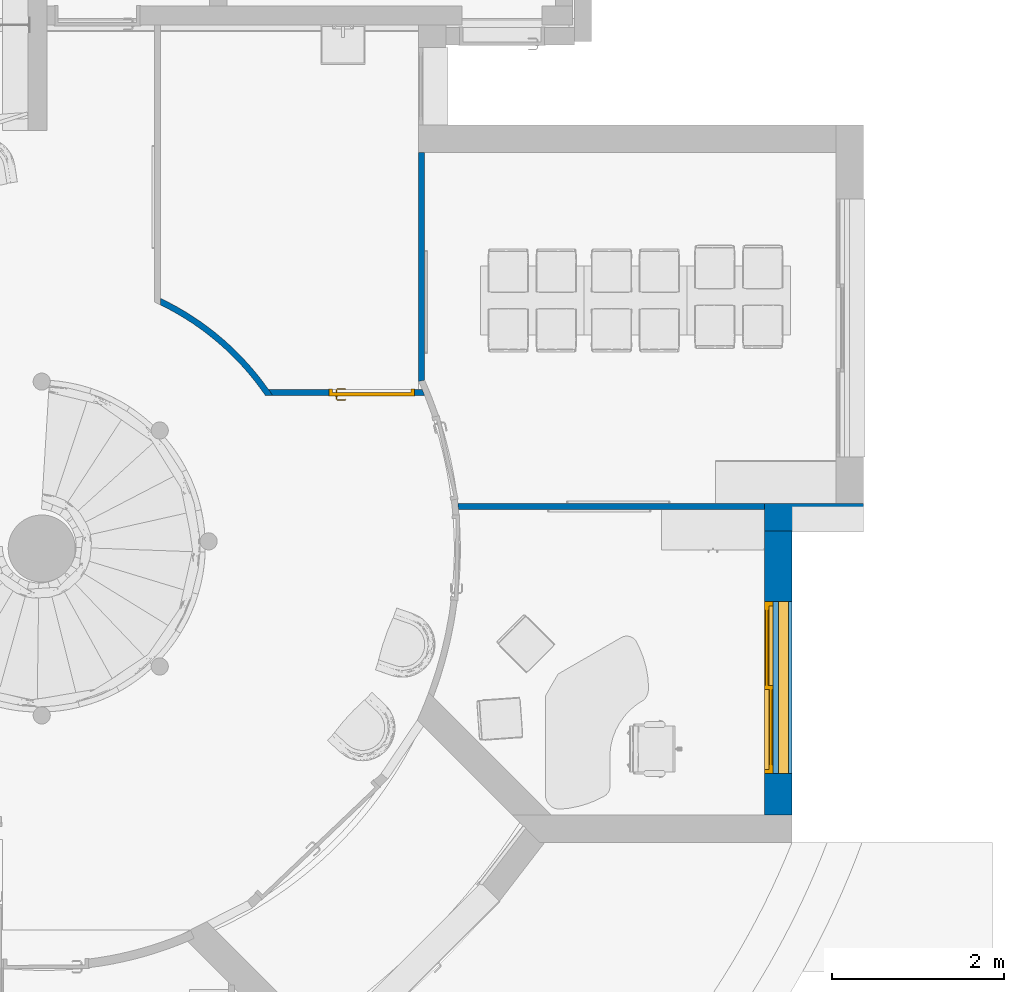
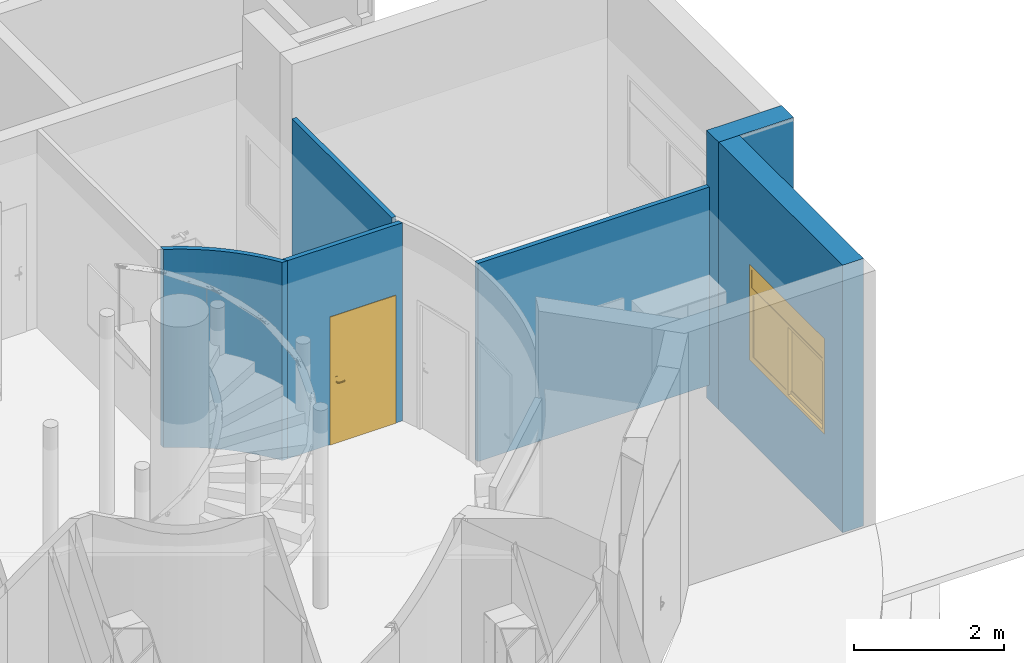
# One storey, part 58 of 137: 6 walls, 1 door, 1 window, 2 openings.
"""IFC2X3 building model written with IfcOpenShell, lengths in centimetres."""

from ifc_helpers import new_model, entity, si_unit, converted_unit, derived_unit, direction, frame, frame_2d, origin, origin_2d_with_axis, place, context, subcontext, project, spatial, polyline, circle_curve, parameter, trimmed, segment, composite_curve, rectangle, outline, extrude, faceted_brep, source, transform, mapped, material, material_list, layer, layer_set, layer_usage, type_object, type_shapes, element, fill, save


model = new_model("IFC2X3")

# Units and contexts
model_context = context("Model", 3, precision=0.001, world=origin(), true_north=direction((6.12303176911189e-17, 1.0)))
body_context = subcontext(model_context, "Body", "Model", "MODEL_VIEW")
ifc_project = project(units=[si_unit("LENGTHUNIT", "METRE", prefix="CENTI"), si_unit("AREAUNIT", "SQUARE_METRE"), si_unit("VOLUMEUNIT", "CUBIC_METRE"), converted_unit("PLANEANGLEUNIT", "DEGREE", entity("IfcRatioMeasure", 0.0174532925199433), si_unit("PLANEANGLEUNIT", "RADIAN"), dimensions=[0, 0, 0, 0, 0, 0, 0]), si_unit("MASSUNIT", "GRAM", prefix="KILO"), si_unit("TIMEUNIT", "SECOND"), si_unit("FREQUENCYUNIT", "HERTZ"), si_unit("THERMODYNAMICTEMPERATUREUNIT", "DEGREE_CELSIUS"), derived_unit("THERMALTRANSMITTANCEUNIT", [(si_unit("MASSUNIT", "GRAM", prefix="KILO"), 1), (si_unit("THERMODYNAMICTEMPERATUREUNIT", "KELVIN"), -1), (si_unit("TIMEUNIT", "SECOND"), -3)]), derived_unit("VOLUMETRICFLOWRATEUNIT", [(si_unit("LENGTHUNIT", "METRE"), 3), (si_unit("TIMEUNIT", "SECOND"), -1)]), si_unit("ELECTRICCURRENTUNIT", "AMPERE"), si_unit("ELECTRICVOLTAGEUNIT", "VOLT"), si_unit("POWERUNIT", "WATT"), si_unit("FORCEUNIT", "NEWTON", prefix="KILO"), si_unit("ILLUMINANCEUNIT", "LUX"), si_unit("LUMINOUSFLUXUNIT", "LUMEN"), si_unit("LUMINOUSINTENSITYUNIT", "CANDELA"), derived_unit("USERDEFINED", [(si_unit("MASSUNIT", "GRAM", prefix="KILO"), -1), (si_unit("LENGTHUNIT", "METRE"), -2), (si_unit("TIMEUNIT", "SECOND"), 3), (si_unit("LUMINOUSFLUXUNIT", "LUMEN"), 1)]), derived_unit("LINEARVELOCITYUNIT", [(si_unit("LENGTHUNIT", "METRE"), 1), (si_unit("TIMEUNIT", "SECOND"), -1)]), si_unit("PRESSUREUNIT", "PASCAL"), derived_unit("USERDEFINED", [(si_unit("LENGTHUNIT", "METRE"), -2), (si_unit("MASSUNIT", "GRAM", prefix="KILO"), 1), (si_unit("TIMEUNIT", "SECOND"), -2)])], contexts=[model_context])

# Site, building, storey
site_placement = place(None, frame((8.62739174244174, -249.285249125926, 0.0)))
site = spatial("IfcSite", under=ifc_project, at=site_placement, Name="Default", CompositionType="ELEMENT")
building_placement = place(site_placement, origin())
building = spatial("IfcBuilding", under=site, at=building_placement, CompositionType="ELEMENT")
storey_placement = place(building_placement, origin())
storey = spatial("IfcBuildingStorey", under=building, at=storey_placement, Name="RDC", CompositionType="ELEMENT", Elevation=-8.82465566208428e-11)

# Wall, opening, window
ifc_material_1 = material(Name="Maçonnerie - Enduit")
ifc_layer_1 = layer(ifc_material_1, 1.0)
ifc_material_2 = material(Name="Maçonnerie")
ifc_layer_2 = layer(ifc_material_2, 20.0)
ifc_material_3 = material(Name="Laine minérale")
ifc_layer_3 = layer(ifc_material_3, 10.0)
ifc_material_4 = material(Name="Plâtre")
ifc_layer_4 = layer(ifc_material_4, 1.0)
ifc_layer_set_1 = layer_set([ifc_layer_1, ifc_layer_2, ifc_layer_3, ifc_layer_4], Name="Mur de base:END 1 + PAR 20 + ISO 10 + PLA 1")
ifc_layer_usage_1 = layer_usage(ifc_layer_set_1, "AXIS2", "POSITIVE", -16.0)
wall_type_1 = type_object("IfcWallType", Name="Mur de base:END 1 + PAR 20 + ISO 10 + PLA 1", PredefinedType="STANDARD", material=ifc_layer_set_1)
wall_1_placement = place(storey_placement, frame((3899.90482781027, 443.980208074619, -25.0), z_axis=(0.0, 0.0, 1.0), x_axis=(0.0, 1.0, 0.0)))
wall_1 = element("IfcWallStandardCase", 1, at=wall_1_placement, inside=storey, type_object=wall_type_1, material=ifc_layer_usage_1, Name="Mur de base:END 1 + PAR 20 + ISO 10 + PLA 1", ObjectType="Mur de base:END 1 + PAR 20 + ISO 10 + PLA 1", context=body_context, shape_type="SweptSolid", body=[
    extrude(rectangle(XDim=330.000000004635, YDim=32.0000000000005, at=frame_2d((165.000000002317, -1.78523862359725e-13), x_axis=(-1.0, 0.0))), origin(), (0.0, 0.0, 1.0), 434.999999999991),
])
opening_1_placement = place(wall_1_placement, frame((248.0, 16.0, 131.0)))
opening_1 = element("IfcOpeningElement", 2, at=opening_1_placement, cuts=wall_1, Name="C_200x115-I_200x40:C_200x115-I_200x40:1", ObjectType="Opening", context=body_context, shape_type="SweptSolid", body=[
    extrude(rectangle(XDim=155.0, YDim=200.0, at=frame_2d((77.5, 100.0), x_axis=(1.0, 0.0))), frame((0.0, 0.0, 0.0), z_axis=(0.0, -1.0, 0.0), x_axis=(0.0, 0.0, 1.0)), (0.0, 0.0, 1.0), 32.0),
])
ifc_material_5 = material(Name="Verre")
window_style = type_object("IfcWindowStyle", Name="C_200x115-I_200x40", ConstructionType="NOTDEFINED", OperationType="NOTDEFINED", ParameterTakesPrecedence=False, Sizeable=False, material=ifc_material_5)
shared_shape_1 = source(origin(), body_context, "Body", "SweptSolid", [
    extrude(outline(polyline([(-77.5000000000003, -100.0), (77.5000000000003, -100.0), (77.5000000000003, 100.0), (-77.5000000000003, 100.0), (-77.5000000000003, -100.0)]), holes=[polyline([(72.5000000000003, -95.0), (-72.5000000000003, -95.0), (-72.5000000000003, 95.0), (72.5000000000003, 95.0), (72.5000000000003, -95.0)])]), frame((100.0, 0.0, 77.4999999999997), z_axis=(0.0, 1.0, 0.0), x_axis=(0.0, 0.0, -1.0)), (0.0, 0.0, 1.0), 10.0),
    extrude(outline(polyline([(-4.0819498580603, -1.15506155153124), (7.9633333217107, -1.15506155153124), (7.92001851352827, -0.656941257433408), (-3.62337786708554, -0.65694125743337), (-3.83995190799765, 1.83366021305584), (-4.33807220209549, 1.79034540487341), (-4.0819498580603, -1.15506155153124)])), frame((0.0, 23.8333333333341, 1.15942028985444), z_axis=(1.0, 0.0, 0.0), x_axis=(0.0, -0.996240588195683, 0.0866296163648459)), (0.0, 0.0, 1.0), 200.0),
    extrude(rectangle(XDim=5.0, YDim=190.0, at=origin_2d_with_axis()), frame((100.0, 3.5, 120.0), z_axis=(0.0, 0.0, 1.0), x_axis=(0.0, 1.0, 0.0)), (0.0, 0.0, 1.0), 30.0),
    extrude(rectangle(XDim=10.0, YDim=190.0, at=origin_2d_with_axis()), frame((100.0, 5.0, 115.0), z_axis=(0.0, 0.0, 1.0), x_axis=(0.0, 1.0, 0.0)), (0.0, 0.0, 1.0), 5.0),
    extrude(rectangle(XDim=3.0, YDim=87.5000000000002, at=frame_2d((-7.7715611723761e-16, 0.0), x_axis=(1.0, 0.0))), frame((146.25, 7.5, 10.0), z_axis=(0.0, 0.0, 1.0), x_axis=(0.0, 1.0, 0.0)), (0.0, 0.0, 1.0), 100.000000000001),
    extrude(rectangle(XDim=3.0, YDim=87.5000000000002, at=frame_2d((7.7715611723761e-16, 0.0), x_axis=(1.0, 0.0))), frame((53.75, 2.5, 10.0), z_axis=(0.0, 0.0, 1.0), x_axis=(0.0, 1.0, 0.0)), (0.0, 0.0, 1.0), 100.0),
    extrude(outline(polyline([(-55.0, -48.7499999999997), (55.0, -48.7499999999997), (55.0, 48.7499999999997), (-55.0, 48.7499999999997), (-55.0, -48.7499999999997)]), holes=[polyline([(50.0, -43.75), (-50.0, -43.75), (-50.0, 43.75), (50.0, 43.75), (50.0, -43.75)])]), frame((146.25, 5.0, 60.0), z_axis=(0.0, 1.0, 0.0), x_axis=(0.0, 0.0, -1.0)), (0.0, 0.0, 1.0), 5.00000000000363),
    extrude(outline(polyline([(-55.0, -48.7499999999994), (55.0, -48.7499999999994), (55.0, 48.7499999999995), (-55.0, 48.7499999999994), (-55.0, -48.7499999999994)]), holes=[polyline([(50.0, -43.75), (-50.0, -43.75), (-50.0, 43.75), (50.0, 43.7500000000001), (50.0, -43.75)])]), frame((53.75, 0.0, 60.0), z_axis=(0.0, 1.0, 0.0), x_axis=(0.0, 0.0, -1.0)), (0.0, 0.0, 1.0), 4.99999999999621),
])
type_shapes(window_style, [shared_shape_1])
window_placement = place(opening_1_placement, frame((0.0, 0.0, 0.0), z_axis=(0.0, 0.0, 1.0), x_axis=(-1.0, 0.0, 0.0)))
window = element("IfcWindow", 3, at=window_placement, inside=storey, type_object=window_style, material=ifc_material_5, Name="C_200x115-I_200x40:C_200x115-I_200x40", ObjectType="C_200x115-I_200x40", OverallHeight=155.0, OverallWidth=200.0, context=body_context, shape_type="MappedRepresentation", body=[
    mapped(shared_shape_1, transform((0.0, 0.0, 0.0), scale=1.0)),
])
fill(opening_1, window)

# Walls
ifc_layer_usage_2 = layer_usage(ifc_layer_set_1, "AXIS2", "POSITIVE", -16.0)
wall_2_placement = place(storey_placement, frame((3883.90482781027, 789.980208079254, -25.0)))
element("IfcWallStandardCase", 4, at=wall_2_placement, inside=storey, type_object=wall_type_1, material=ifc_layer_usage_2, Name="Mur de base:END 1 + PAR 20 + ISO 10 + PLA 1", ObjectType="Mur de base:END 1 + PAR 20 + ISO 10 + PLA 1", context=body_context, shape_type="SweptSolid", body=[
    extrude(rectangle(XDim=114.999999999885, YDim=32.0000000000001, at=frame_2d((57.4999999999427, 2.8421709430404e-14), x_axis=(-1.0, 0.0))), origin(), (0.0, 0.0, 1.0), 434.999999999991),
])
ifc_material_6 = material(Name="Plâtre EXISTANT")
ifc_layer_5 = layer(ifc_material_6, 7.0)
ifc_layer_set_2 = layer_set([ifc_layer_5], Name="Mur de base:PLA EXISTANT 7")
ifc_layer_usage_3 = layer_usage(ifc_layer_set_2, "AXIS2", "NEGATIVE", 3.5)
wall_type_2 = type_object("IfcWallType", Name="Mur de base:PLA EXISTANT 7", PredefinedType="STANDARD", material=ifc_layer_set_2)
wall_3_placement = place(storey_placement, frame((3485.40482780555, 1213.9802080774, 0.0), z_axis=(0.0, 0.0, 1.0), x_axis=(0.0, -1.0, 0.0)))
element("IfcWallStandardCase", 5, at=wall_3_placement, inside=storey, type_object=wall_type_2, material=ifc_layer_usage_3, Name="Mur de base:PLA EXISTANT 7", ObjectType="Mur de base:PLA EXISTANT 7", context=body_context, shape_type="SweptSolid", body=[
    extrude(outline(polyline([(266.082056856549, -3.5000000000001), (264.5990230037, 3.50000000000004), (0.0, 3.50000000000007), (0.0, -3.50000000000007), (266.082056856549, -3.5000000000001)])), origin(), (0.0, 0.0, 1.0), 322.000000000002),
])
ifc_layer_usage_4 = layer_usage(ifc_layer_set_2, "AXIS2", "NEGATIVE", 3.5)
wall_4_placement = place(storey_placement, frame((3883.90482781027, 802.480208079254, 0.0), z_axis=(0.0, 0.0, 1.0), x_axis=(-1.0, 0.0, 0.0)))
element("IfcWallStandardCase", 6, at=wall_4_placement, inside=storey, type_object=wall_type_2, material=ifc_layer_usage_4, Name="Mur de base:PLA EXISTANT 7", ObjectType="Mur de base:PLA EXISTANT 7", context=body_context, shape_type="SweptSolid", body=[
    extrude(outline(composite_curve([segment(trimmed(circle_curve(frame_2d((839.861870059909, 49.6419751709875), x_axis=(-1.0, 0.0)), 486.344749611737), [parameter(5.44412736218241)], [parameter(6.27312747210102)], True, "PARAMETER"), False, "CONTINUOUS"), segment(polyline([(355.710929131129, 3.49999999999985), (0.0, 3.49999999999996)]), True, "CONTINUOUS"), segment(polyline([(0.0, 3.49999999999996), (0.0, -3.50000000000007)]), True, "CONTINUOUS"), segment(polyline([(0.0, -3.50000000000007), (356.429200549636, -3.50000000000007)]), True, "CONTINUOUS")], self_intersect=False)), origin(), (0.0, 0.0, 1.0), 322.000000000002),
])
ifc_layer_usage_5 = layer_usage(ifc_layer_set_2, "AXIS2", "POSITIVE", -3.5)
wall_5_placement = place(storey_placement, frame((3180.40323421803, 1041.30951033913, 0.0)))
element("IfcWallStandardCase", 7, at=wall_5_placement, inside=storey, type_object=wall_type_2, material=ifc_layer_usage_5, Name="Mur de base:PLA EXISTANT 7", ObjectType="Mur de base:PLA EXISTANT 7", context=body_context, shape_type="SweptSolid", body=[
    extrude(outline(composite_curve([segment(polyline([(131.754389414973, -109.80588614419), (129.389780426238, -106.288714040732)]), True, "CONTINUOUS"), segment(polyline([(129.389780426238, -106.288714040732), (126.978448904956, -102.802262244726)]), True, "CONTINUOUS"), segment(polyline([(126.978448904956, -102.802262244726), (115.958915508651, -88.01054460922)]), True, "CONTINUOUS"), segment(polyline([(115.958915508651, -88.01054460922), (104.107276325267, -73.870622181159)]), True, "CONTINUOUS"), segment(polyline([(104.107276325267, -73.870622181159), (91.4652188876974, -60.4326862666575)]), True, "CONTINUOUS"), segment(polyline([(91.4652188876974, -60.4326862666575), (78.0742383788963, -47.7408520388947)]), True, "CONTINUOUS"), segment(polyline([(78.0742383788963, -47.7408520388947), (63.9782878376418, -35.83678688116)]), True, "CONTINUOUS"), segment(polyline([(63.9782878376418, -35.83678688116), (49.2236340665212, -24.7595737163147)]), True, "CONTINUOUS"), segment(polyline([(49.2236340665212, -24.7595737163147), (33.8587059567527, -14.545582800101)]), True, "CONTINUOUS"), segment(polyline([(33.8587059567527, -14.545582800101), (17.9339702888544, -5.22837131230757)]), True, "CONTINUOUS"), segment(polyline([(17.9339702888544, -5.22837131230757), (1.50159358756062, 3.16152126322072)]), True, "CONTINUOUS"), segment(polyline([(1.50159358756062, 3.16152126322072), (1.50159358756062, -4.60743521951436)]), True, "CONTINUOUS"), segment(trimmed(circle_curve(frame_2d((-136.645016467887, -287.698434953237), x_axis=(1.0, 0.0)), 315.00000000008), [parameter(34.3841169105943)], [parameter(63.9879179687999)], True, "PARAMETER"), False, "CONTINUOUS"), segment(polyline([(123.315059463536, -109.80588614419), (131.754389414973, -109.80588614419)]), True, "CONTINUOUS")], self_intersect=False)), origin(), (0.0, 0.0, 1.0), 322.000000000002),
])

# Wall, opening, door
ifc_layer_usage_6 = layer_usage(ifc_layer_set_2, "AXIS2", "NEGATIVE", 3.5)
wall_6_placement = place(storey_placement, frame((3307.38436477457, 935.003624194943, 0.0)))
wall_6 = element("IfcWallStandardCase", 8, at=wall_6_placement, inside=storey, type_object=wall_type_2, material=ifc_layer_usage_6, Name="Mur de base:PLA EXISTANT 7", ObjectType="Mur de base:PLA EXISTANT 7", context=body_context, shape_type="SweptSolid", body=[
    extrude(outline(composite_curve([segment(polyline([(4.77325885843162, -3.50000000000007), (181.461995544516, -3.50000000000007)]), True, "CONTINUOUS"), segment(trimmed(circle_curve(frame_2d((-263.341407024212, -182.165391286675), x_axis=(1.0, 0.0)), 479.344749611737), [parameter(21.8839821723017)], [parameter(22.7885682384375)], True, "PARAMETER"), True, "CONTINUOUS"), segment(polyline([(178.58590765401, 3.49999999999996), (0.0, 3.49999999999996)]), True, "CONTINUOUS"), segment(trimmed(circle_curve(frame_2d((-263.626147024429, -181.392548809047), x_axis=(1.0, 0.0)), 322.00000000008), [parameter(33.5360350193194)], [parameter(35.0436592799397)], True, "PARAMETER"), False, "CONTINUOUS")], self_intersect=False)), origin(), (0.0, 0.0, 1.0), 322.000000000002),
])
opening_2_placement = place(wall_6_placement, frame((169.520463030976, 3.49999999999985, 0.0)))
opening_2 = element("IfcOpeningElement", 9, at=opening_2_placement, cuts=wall_6, Name="Simple(R)-bois_MU:93x204cm_MU:1", ObjectType="Opening", context=body_context, shape_type="SweptSolid", body=[
    extrude(rectangle(XDim=206.999999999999, YDim=98.9999999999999, at=frame_2d((103.499999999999, 49.5000000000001), x_axis=(1.0, 0.0))), frame((0.0, 0.0, 0.0), z_axis=(0.0, -1.0, 0.0), x_axis=(0.0, 0.0, 1.0)), (0.0, 0.0, 1.0), 7.0),
])
ifc_material_7 = material(Name="Porte-Poignée_MU")
ifc_material_8 = material(Name="Porte-Cadre_MU")
ifc_material_9 = material(Name="Porte Panneau_MU")
ifc_material_list_1 = material_list([ifc_material_7, ifc_material_8, ifc_material_9])
ifc_material_list_2 = material_list([ifc_material_7, ifc_material_8, ifc_material_9])
door_style = type_object("IfcDoorStyle", Name="93x204cm_MU", ConstructionType="NOTDEFINED", OperationType="SINGLE_SWING_RIGHT", ParameterTakesPrecedence=False, Sizeable=False, material=ifc_material_list_2)
shared_shape_2 = source(origin(), body_context, "Body", "Brep", [
    faceted_brep([(8.29747013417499, 3.69999999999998, 100.778044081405), (7.89999999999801, 3.69999999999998, 100.699999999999), (7.89999999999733, 3.69999999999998, 99.2999999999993), (8.2974701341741, 3.69999999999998, 99.2219559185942), (8.70252986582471, 3.69999999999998, 99.2219559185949), (9.10000000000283, 3.69999999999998, 99.3000000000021), (9.10000000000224, 3.69999999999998, 100.699999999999), (8.70252986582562, 3.69999999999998, 100.778044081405), (9.10000000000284, 5.94852045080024, 99.3000000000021), (9.10000000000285, 5.94852045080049, 100.699999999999), (8.70252986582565, 6.1131579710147, 100.778044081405), (10.0838906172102, 7.49451872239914, 100.778044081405), (9.91610938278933, 7.89957845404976, 100.778044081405), (8.29747013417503, 6.2809392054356, 100.778044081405), (19.0684749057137, 6.84673156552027, 100.778044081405), (19.3548953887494, 7.13315204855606, 100.778044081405), (18.5884689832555, 7.89957845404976, 100.778044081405), (18.4206877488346, 7.49451872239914, 100.778044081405), (7.89999999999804, 6.44557672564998, 100.699999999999), (7.89999999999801, 6.44557672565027, 99.2999999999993), (8.29747013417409, 6.28093920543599, 99.2219559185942), (9.91610938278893, 7.8995784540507, 99.2219559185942), (10.0838906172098, 7.49451872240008, 99.2219559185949), (8.70252986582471, 6.11315797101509, 99.2219559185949), (19.35489538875, 7.13315204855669, 99.2219559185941), (19.0684749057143, 6.84673156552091, 99.2219559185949), (18.420687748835, 7.49451872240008, 99.2219559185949), (18.5884689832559, 7.8995784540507, 99.2219559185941), (10.2485281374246, 7.09704858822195, 99.3000000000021), (10.2485281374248, 7.09704858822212, 100.699999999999), (9.75147186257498, 8.29704858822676, 100.699999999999), (9.75147186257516, 8.29704858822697, 99.2999999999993), (14.2522904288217, 7.09704858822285, 99.3000000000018), (18.2560502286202, 7.09704858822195, 99.3000000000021), (18.2560502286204, 7.09704858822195, 100.699999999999), (14.2522891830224, 7.09704858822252, 100.699999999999), (14.2522891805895, 7.71249275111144, 100.787811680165), (18.7531065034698, 8.29704858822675, 100.699999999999), (14.7600577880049, 8.29704858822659, 100.699999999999), (18.7531065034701, 8.29704858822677, 99.2999999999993), (13.7445206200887, 8.29704858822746, 99.2999999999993), (14.2522892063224, 7.71249274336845, 99.2121883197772), (18.787421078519, 6.56567773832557, 99.3000000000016), (19.635949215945, 7.41420587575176, 99.2999999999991), (19.6359492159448, 7.4142058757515, 100.699999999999), (18.7874210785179, 6.5656777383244, 100.699999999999)], [[[0, 1, 2, 3, 4, 5, 6, 7]], [[6, 5, 8, 9]], [[9, 10, 7, 6]], [[10, 11, 12, 13, 0, 7]], [[14, 15, 16, 17]], [[13, 18, 1, 0]], [[2, 1, 18, 19]], [[19, 20, 3, 2]], [[20, 21, 22, 23, 4, 3]], [[24, 25, 26, 27]], [[23, 8, 5, 4]], [[9, 8, 28, 29]], [[29, 11, 10, 9]], [[12, 30, 18, 13]], [[19, 18, 30, 31]], [[31, 21, 20, 19]], [[22, 28, 8, 23]], [[29, 28, 32, 33, 34, 35]], [[11, 35, 36]], [[16, 37, 38]], [[30, 12, 38]], [[38, 12, 36]], [[36, 35, 17]], [[17, 16, 36]], [[35, 11, 29]], [[34, 17, 35]], [[11, 36, 12]], [[38, 36, 16]], [[31, 30, 38, 37, 39, 40]], [[40, 41, 21]], [[41, 40, 27]], [[21, 31, 40]], [[39, 27, 40]], [[41, 32, 22]], [[22, 21, 41]], [[26, 32, 41]], [[28, 22, 32]], [[32, 26, 33]], [[26, 41, 27]], [[42, 25, 24, 43, 44, 15, 14, 45]], [[34, 33, 42, 45]], [[45, 14, 17, 34]], [[15, 44, 37, 16]], [[39, 37, 44, 43]], [[43, 24, 27, 39]], [[25, 42, 33, 26]]]),
    faceted_brep([(8.29747013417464, -1.30000000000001, 100.778044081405), (8.70252986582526, -1.30000000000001, 100.778044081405), (9.10000000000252, -1.30000000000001, 100.699999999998), (9.10000000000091, -1.30000000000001, 99.3000000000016), (8.70252986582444, -1.30000000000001, 99.2219559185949), (8.29747013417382, -1.30000000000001, 99.2219559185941), (7.8999999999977, -1.30000000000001, 99.2999999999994), (7.89999999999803, -1.30000000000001, 100.699999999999), (7.89999999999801, -4.06509507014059, 100.699999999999), (8.29747013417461, -3.90045754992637, 100.778044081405), (9.90235851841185, -5.50534593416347, 100.778044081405), (10.0701397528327, -5.10028620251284, 100.778044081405), (8.70252986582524, -3.73267631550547, 100.778044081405), (19.3521810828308, -4.73891952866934, 100.778044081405), (19.0657605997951, -4.4524990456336, 100.778044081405), (18.4179734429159, -5.10028620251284, 100.778044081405), (18.5857546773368, -5.50534593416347, 100.778044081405), (9.10000000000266, -3.56803879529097, 100.699999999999), (9.10000000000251, -3.56803879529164, 99.3000000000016), (8.70252986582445, -3.7326763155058, 99.2219559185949), (10.0701397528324, -5.10028620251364, 99.2219559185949), (9.90235851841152, -5.50534593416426, 99.2219559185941), (8.29747013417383, -3.9004575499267, 99.2219559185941), (19.0657605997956, -4.45249904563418, 99.2219559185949), (19.3521810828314, -4.73891952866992, 99.2219559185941), (18.5857546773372, -5.50534593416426, 99.2219559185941), (18.4179734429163, -5.10028620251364, 99.2219559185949), (7.89999999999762, -4.06509507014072, 99.2999999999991), (9.73772099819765, -5.90281606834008, 100.699999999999), (10.2347772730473, -4.70281606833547, 100.699999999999), (10.2347772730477, -4.70281606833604, 99.3000000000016), (9.73772099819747, -5.90281606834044, 99.2999999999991), (13.7307697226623, -5.90281606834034, 100.699999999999), (14.2440566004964, -5.31828027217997, 100.787811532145), (18.7503921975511, -5.90281606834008, 100.699999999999), (14.2440565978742, -4.70281606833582, 100.699999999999), (18.2533359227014, -4.70281606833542, 100.699999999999), (18.2533359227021, -4.70281606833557, 99.3000000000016), (14.2440563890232, -4.70281606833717, 99.3000000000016), (14.2440565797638, -5.31828027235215, 99.2121884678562), (18.7503921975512, -5.90281606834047, 99.2999999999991), (14.7573433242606, -5.90281606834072, 99.2999999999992), (18.7847067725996, -4.1714452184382, 100.699999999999), (19.6332349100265, -5.01997335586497, 100.699999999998), (19.633234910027, -5.01997335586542, 99.2999999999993), (18.7847067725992, -4.17144521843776, 99.3000000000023)], [[[0, 1, 2, 3, 4, 5, 6, 7]], [[8, 9, 0, 7]], [[9, 10, 11, 12, 1, 0]], [[13, 14, 15, 16]], [[12, 17, 2, 1]], [[3, 2, 17, 18]], [[18, 19, 4, 3]], [[19, 20, 21, 22, 5, 4]], [[23, 24, 25, 26]], [[22, 27, 6, 5]], [[7, 6, 27, 8]], [[28, 10, 9, 8]], [[11, 29, 17, 12]], [[18, 17, 29, 30]], [[30, 20, 19, 18]], [[21, 31, 27, 22]], [[8, 27, 31, 28]], [[32, 33, 10]], [[33, 32, 16]], [[10, 28, 32]], [[34, 16, 32]], [[33, 35, 11]], [[11, 10, 33]], [[15, 35, 33]], [[29, 11, 35]], [[35, 15, 36]], [[15, 33, 16]], [[30, 29, 35, 36, 37, 38]], [[20, 38, 39]], [[25, 40, 41]], [[31, 21, 41]], [[41, 21, 39]], [[39, 38, 26]], [[26, 25, 39]], [[38, 20, 30]], [[37, 26, 38]], [[20, 39, 21]], [[41, 39, 25]], [[28, 31, 41, 40, 34, 32]], [[42, 14, 13, 43, 44, 24, 23, 45]], [[43, 13, 16, 34]], [[14, 42, 36, 15]], [[37, 36, 42, 45]], [[45, 23, 26, 37]], [[24, 44, 40, 25]], [[34, 40, 44, 43]]]),
    faceted_brep([(9.53527618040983, 3.19999999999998, 86.6003983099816), (10.4999999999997, 3.19999999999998, 87.0), (10.4999999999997, 3.19999999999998, 108.0), (9.53527618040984, 3.19999999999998, 108.399601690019), (8.49999999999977, 3.19999999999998, 108.535898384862), (7.46472381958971, 3.19999999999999, 108.399601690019), (6.49999999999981, 3.19999999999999, 108.0), (6.49999999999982, 3.19999999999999, 87.0), (7.4647238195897, 3.19999999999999, 86.6003983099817), (8.49999999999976, 3.19999999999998, 86.4641016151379), (9.53527618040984, 3.69999999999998, 108.399601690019), (10.4999999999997, 3.69999999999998, 108.0), (10.4999999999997, 3.69999999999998, 87.0), (9.53527618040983, 3.69999999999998, 86.6003983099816), (8.49999999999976, 3.69999999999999, 86.4641016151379), (7.4647238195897, 3.69999999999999, 86.6003983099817), (6.49999999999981, 3.69999999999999, 87.0), (6.49999999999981, 3.69999999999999, 108.0), (7.46472381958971, 3.69999999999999, 108.399601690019), (8.49999999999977, 3.69999999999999, 108.535898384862)], [[[0, 1, 2, 3, 4, 5, 6, 7, 8, 9]], [[10, 11, 12, 13, 14, 15, 16, 17, 18, 19]], [[11, 10, 3, 2]], [[3, 10, 19, 4]], [[19, 18, 5, 4]], [[18, 17, 6, 5]], [[7, 6, 17, 16]], [[16, 15, 8, 7]], [[8, 15, 14, 9]], [[14, 13, 0, 9]], [[13, 12, 1, 0]], [[2, 1, 12, 11]]]),
    faceted_brep([(9.53527618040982, -1.30000000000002, 86.6003983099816), (10.4999999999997, -1.30000000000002, 87.0), (10.4999999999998, -1.30000000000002, 108.0), (9.53527618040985, -1.30000000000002, 108.399601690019), (8.49999999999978, -1.30000000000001, 108.535898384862), (7.46472381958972, -1.30000000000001, 108.399601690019), (6.49999999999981, -1.30000000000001, 108.0), (6.49999999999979, -1.30000000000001, 87.0), (7.46472381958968, -1.30000000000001, 86.6003983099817), (8.49999999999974, -1.30000000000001, 86.4641016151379), (9.53527618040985, -0.800000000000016, 108.399601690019), (10.4999999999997, -0.800000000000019, 108.0), (10.4999999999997, -0.800000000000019, 87.0), (9.53527618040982, -0.800000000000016, 86.6003983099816), (8.49999999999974, -0.800000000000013, 86.4641016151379), (7.46472381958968, -0.800000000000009, 86.6003983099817), (6.49999999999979, -0.800000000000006, 87.0), (6.49999999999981, -0.800000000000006, 108.0), (7.46472381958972, -0.800000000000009, 108.399601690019), (8.49999999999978, -0.800000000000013, 108.535898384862)], [[[0, 1, 2, 3, 4, 5, 6, 7, 8, 9]], [[10, 11, 12, 13, 14, 15, 16, 17, 18, 19]], [[16, 15, 8, 7]], [[8, 15, 14, 9]], [[14, 13, 0, 9]], [[13, 12, 1, 0]], [[2, 1, 12, 11]], [[11, 10, 3, 2]], [[3, 10, 19, 4]], [[19, 18, 5, 4]], [[18, 17, 6, 5]], [[7, 6, 17, 16]]]),
    faceted_brep([(0.0, 0.0, 0.0), (0.0, 7.0, 0.0), (-1.0, 7.0, 0.0), (-1.0, 7.80000000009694, 0.0), (4.0, 7.80000000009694, 0.0), (4.0, 3.2, 0.0), (3.0, 3.2, 0.0), (3.0, -0.799999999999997, 0.0), (-1.0, -0.799999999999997, 0.0), (-1.0, 0.0, 0.0), (0.0, 0.0, 207.0), (0.0, 7.0, 207.0), (99.0, 7.0, 207.0), (99.0, 7.0, 0.0), (100.0, 7.0, 0.0), (100.0, 7.0, 208.0), (-1.0, 7.0, 208.0), (-1.0, 7.80000000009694, 208.0), (100.0, 7.80000000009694, 208.0), (100.0, 7.80000000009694, 0.0), (95.0, 7.80000000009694, 0.0), (95.0, 7.80000000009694, 203.0), (4.0, 7.80000000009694, 203.0), (4.0, 3.2, 203.0), (95.0, 3.2, 203.0), (95.0, 3.2, 0.0), (96.0, 3.2, 0.0), (96.0, 3.2, 204.0), (3.0, 3.2, 204.0), (3.0, -0.799999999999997, 204.0), (96.0, -0.799999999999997, 204.0), (96.0, -0.799999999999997, 0.0), (100.0, -0.799999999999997, 0.0), (100.0, -0.799999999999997, 208.0), (-1.0, -0.799999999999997, 208.0), (-1.0, 0.0, 208.0), (100.0, 0.0, 208.0), (100.0, 0.0, 0.0), (99.0, 0.0, 0.0), (99.0, 0.0, 207.0)], [[[0, 1, 2, 3, 4, 5, 6, 7, 8, 9]], [[1, 0, 10, 11]], [[2, 1, 11, 12, 13, 14, 15, 16]], [[3, 2, 16, 17]], [[4, 3, 17, 18, 19, 20, 21, 22]], [[5, 4, 22, 23]], [[6, 5, 23, 24, 25, 26, 27, 28]], [[7, 6, 28, 29]], [[8, 7, 29, 30, 31, 32, 33, 34]], [[9, 8, 34, 35]], [[0, 9, 35, 36, 37, 38, 39, 10]], [[12, 39, 38, 13]], [[38, 37, 32, 31, 26, 25, 20, 19, 14, 13]], [[18, 15, 14, 19]], [[24, 21, 20, 25]], [[30, 27, 26, 31]], [[36, 33, 32, 37]], [[11, 10, 39, 12]], [[17, 16, 15, 18]], [[23, 22, 21, 24]], [[29, 28, 27, 30]], [[35, 34, 33, 36]]]),
    faceted_brep([(3.0, -0.799999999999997, 204.0), (3.0, -0.799999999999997, 0.0), (96.0, -0.799999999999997, 0.0), (96.0, -0.799999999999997, 204.0), (3.0, 3.2, 204.0), (96.0, 3.2, 204.0), (96.0, 3.2, 0.0), (3.0, 3.2, 0.0)], [[[0, 1, 2, 3]], [[4, 5, 6, 7]], [[1, 0, 4, 7]], [[2, 1, 7, 6]], [[3, 2, 6, 5]], [[0, 3, 5, 4]]]),
])
type_shapes(door_style, [shared_shape_2])
door_placement = place(opening_2_placement, frame((-99.0, -7.0, 0.0)))
door = element("IfcDoor", 10, at=door_placement, inside=storey, type_object=door_style, material=ifc_material_list_1, Name="Simple(R)-bois_MU:93x204cm_MU", ObjectType="93x204cm_MU", OverallHeight=206.999999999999, OverallWidth=99.0, context=body_context, shape_type="MappedRepresentation", body=[
    mapped(shared_shape_2, transform((0.0, 0.0, 0.0), scale=1.0)),
])
fill(opening_2, door)

save(model, "model.ifc")
